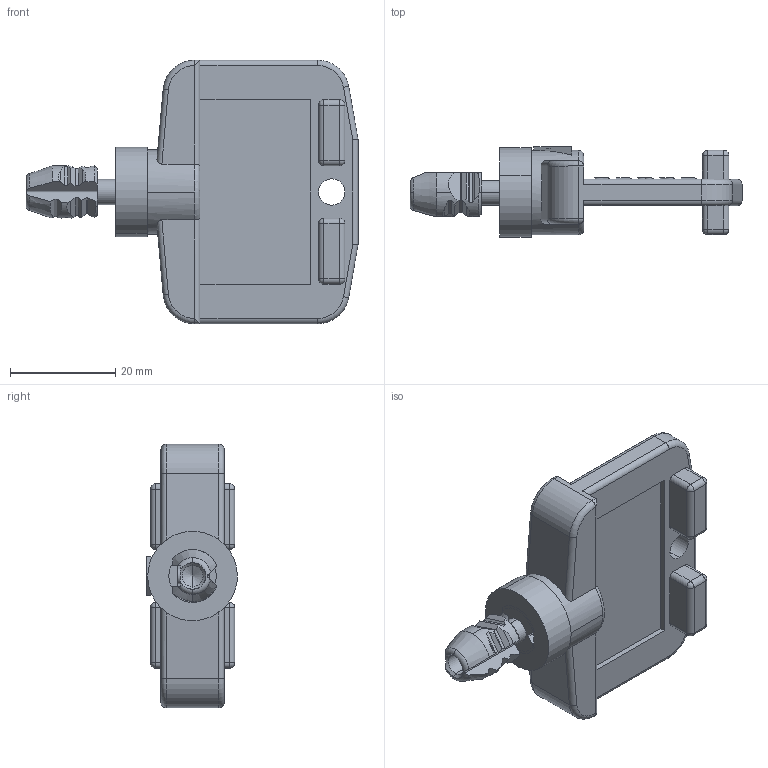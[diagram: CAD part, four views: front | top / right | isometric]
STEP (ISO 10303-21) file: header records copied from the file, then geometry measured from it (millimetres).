
FILE_DESCRIPTION (( 'STEP AP203' ), '1' );
FILE_NAME ('AKEYE10.STEP', '2017-10-13T09:37:59', ( '' ), ( '' ), 'SwSTEP 2.0', 'SolidWorks 2016', '' );
FILE_SCHEMA (( 'CONFIG_CONTROL_DESIGN' ));
Length unit declared in the file: millimetre
Products named in the file (5): 378623; 711158_min cuts; 110131; 242085; AKEYE10
Assembly tree (4 placements, depth 2):
  AKEYE10
    711158_min cuts
    378623
    110131
    242085
Bounding box: 63 x 17.19 x 50 mm (x, y, z)
Volume: 13720.1 mm3; surface area: 8900.9 mm2
Topology: 4 solids, 4 shells, 458 faces, 1209 edges, 749 vertices
Faces by surface type: plane 203, cylinder 122, bspline 62, cone 40, sphere 18, torus 13
Entity records: 17440 total; most frequent: CARTESIAN_POINT 6309, ORIENTED_EDGE 2334, DIRECTION 1998, EDGE_CURVE 1167, VERTEX_POINT 747, LINE 702, VECTOR 702, AXIS2_PLACEMENT_3D 648
